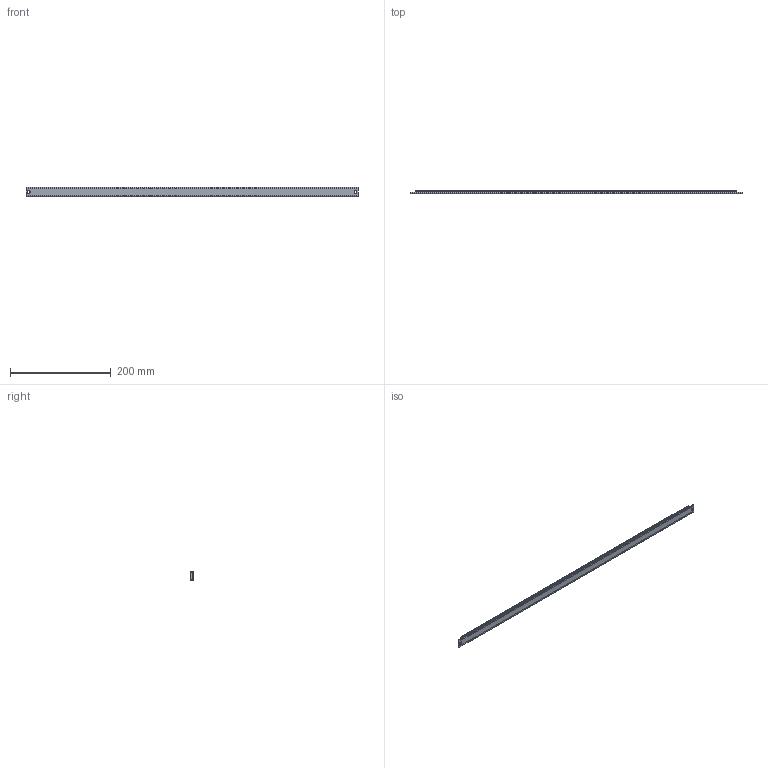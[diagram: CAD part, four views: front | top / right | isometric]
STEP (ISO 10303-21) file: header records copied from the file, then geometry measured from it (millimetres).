
FILE_DESCRIPTION (( 'STEP AP214' ), '1' );
FILE_NAME ('SAScale_exposed.ScaleLneght660.STEP', '2026-03-10T09:11:54', ( '' ), ( '' ), 'SwSTEP 2.0', 'SolidWorks 2024', '' );
FILE_SCHEMA (( 'AUTOMOTIVE_DESIGN' ));
Length unit declared in the file: millimetre
Products named in the file (1): SAScale_exposed.ScaleLneght660
Bounding box: 660 x 6 x 18 mm (x, y, z)
Volume: 64661.5 mm3; surface area: 56235.4 mm2
Topology: 2 solids, 2 shells, 52 faces, 141 edges, 94 vertices
Faces by surface type: plane 37, cylinder 15
Entity records: 2247 total; most frequent: CARTESIAN_POINT 288, ORIENTED_EDGE 282, DIRECTION 277, EDGE_CURVE 141, VECTOR 111, LINE 111, VERTEX_POINT 94, AXIS2_PLACEMENT_3D 83
